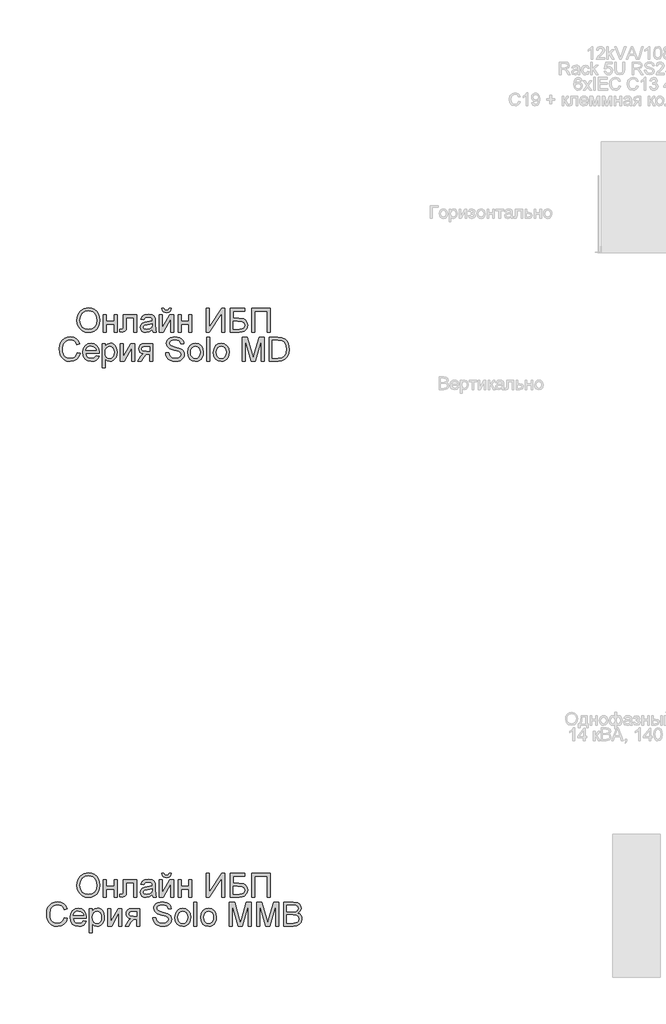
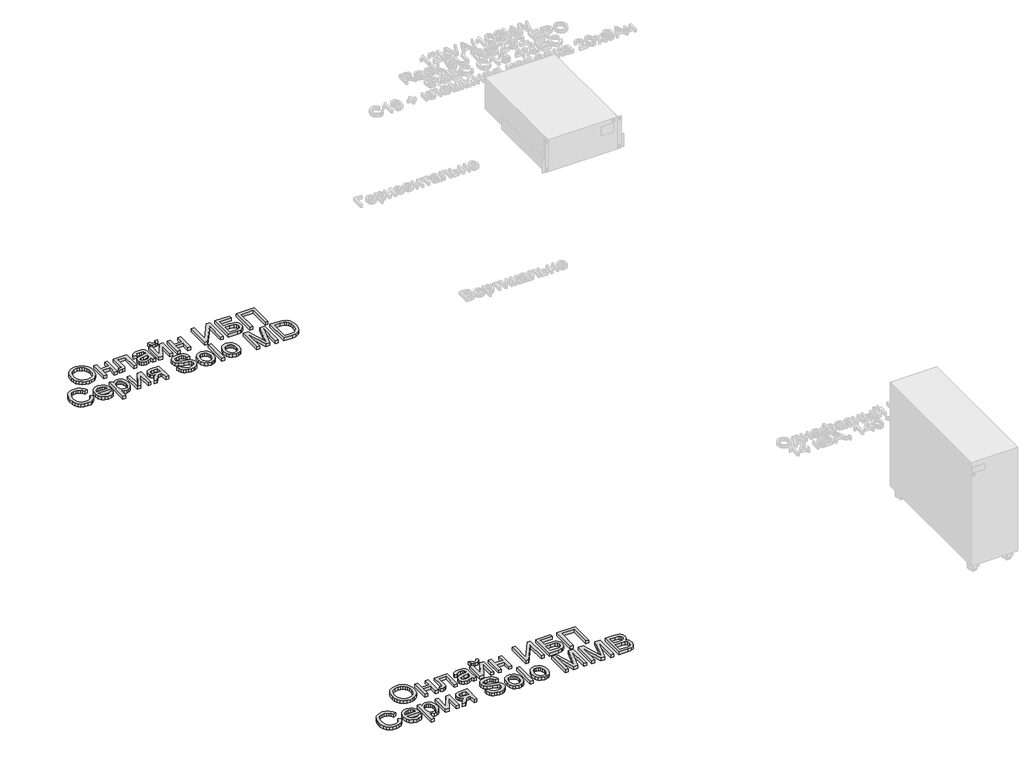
# One storey, part 8 of 74: 2 proxies.
"""IFC4 building model written with IfcOpenShell, lengths in millimetres."""

import ifcopenshell
import ifcopenshell.guid

model = None  # the IFC model being written
_history = None  # IfcOwnerHistory: only IFC2X3 demands one
_inside = {}  # id of a spatial element -> (the spatial element, [elements in it])
_under = {}  # id of a project, library or spatial element -> (it, [spatial elements below it])
_declared = {}  # id of a project -> (the project, [libraries it declares])
_typed = {}  # id of a type object -> (the type object, [elements of that type])
_made_of = {}  # id of a material, layer set ... -> (it, [elements and type objects made of it])


def new_model(schema):
    """Start an empty IFC model of exactly this schema.

    Asked for "IFC4X3", IfcOpenShell would pick the latest addendum, in which some entities
    have other attributes; the version numbers below select the first issue.
    IFC2X3 requires an IfcOwnerHistory on every rooted entity: one is made here for all.
    """
    global model, _history
    if schema == "IFC4X3":
        model = ifcopenshell.file(schema_version=(4, 3, 0, 0))
    else:
        model = ifcopenshell.file(schema=schema)
    _inside.clear()
    _under.clear()
    _declared.clear()
    _typed.clear()
    _made_of.clear()
    _history = None
    if model.schema == "IFC2X3":
        org = make("IfcOrganization", Name="unknown")
        user = make(
            "IfcPersonAndOrganization",
            ThePerson=make("IfcPerson", FamilyName="unknown"),
            TheOrganization=org,
        )
        app = make(
            "IfcApplication",
            ApplicationDeveloper=org,
            Version="unknown",
            ApplicationFullName="unknown",
            ApplicationIdentifier="unknown",
        )
        _history = make(
            "IfcOwnerHistory",
            OwningUser=user,
            OwningApplication=app,
            ChangeAction="ADDED",
            CreationDate=0,
        )
    return model


def make(cls, **values):
    """One entity of the class cls with the attributes given. An attribute that is None is left unset."""
    return model.create_entity(
        cls, **{name: value for name, value in values.items() if value is not None}
    )


def rooted(cls, **values):
    """An entity with a GlobalId (a new one), such as an element, a storey or a relation."""
    return make(cls, GlobalId=ifcopenshell.guid.new(), OwnerHistory=_history, **values)


def si_unit(unit_type, name, prefix=None):
    """IfcSIUnit, for example si_unit("LENGTHUNIT", "METRE", prefix="MILLI")."""
    return make("IfcSIUnit", UnitType=unit_type, Prefix=prefix, Name=name)


def assignment(units):
    """IfcUnitAssignment: the units of a project."""
    return None if units is None else make("IfcUnitAssignment", Units=units)


def point(xyz):
    """IfcCartesianPoint."""
    return None if xyz is None else make("IfcCartesianPoint", Coordinates=xyz)


def direction(xyz):
    """IfcDirection."""
    return None if xyz is None else make("IfcDirection", DirectionRatios=xyz)


def frame(location, z_axis=None, x_axis=None):
    """IfcAxis2Placement3D, a coordinate frame: its origin and axes. An axis left out is left unset."""
    return make(
        "IfcAxis2Placement3D",
        Location=point(location),
        Axis=direction(z_axis),
        RefDirection=direction(x_axis),
    )


def origin():
    """The frame at (0, 0, 0) with its axes left unset."""
    return frame((0.0, 0.0, 0.0))


def origin_with_axes():
    """The frame at (0, 0, 0) with the z axis (0, 0, 1) and the x axis (1, 0, 0) written out."""
    return frame((0.0, 0.0, 0.0), z_axis=(0.0, 0.0, 1.0), x_axis=(1.0, 0.0, 0.0))


def place(relative_to, where):
    """IfcLocalPlacement: puts the frame where relative to a parent placement (None: the world)."""
    return make(
        "IfcLocalPlacement", PlacementRelTo=relative_to, RelativePlacement=where
    )


def context(
    kind, dimensions, precision=None, world=None, true_north=None, identifier=None
):
    """IfcGeometricRepresentationContext, for example the 3D "Model" context."""
    return make(
        "IfcGeometricRepresentationContext",
        ContextIdentifier=identifier,
        ContextType=kind,
        CoordinateSpaceDimension=dimensions,
        Precision=precision,
        WorldCoordinateSystem=world,
        TrueNorth=true_north,
    )


def project(units=None, contexts=None):
    """IfcProject with its units and contexts."""
    return rooted(
        "IfcProject",
        Name="project",
        RepresentationContexts=contexts,
        UnitsInContext=assignment(units),
    )


def spatial(cls, under=None, at=None, **own):
    """A site, building, storey or space (cls), placed at a placement, below another one or the project."""
    s = rooted(cls, ObjectPlacement=at, **own)
    if under is not None:
        _under.setdefault(under.id(), (under, []))[1].append(s)
    return s


def polyline(points):
    """IfcPolyline through the points."""
    return make("IfcPolyline", Points=[point(p) for p in points])


def outline(outer, holes=None, kind="AREA"):
    """IfcArbitraryClosedProfileDef: a profile drawn as a closed curve; with holes, ...WithVoids."""
    if holes is None:
        return make("IfcArbitraryClosedProfileDef", ProfileType=kind, OuterCurve=outer)
    return make(
        "IfcArbitraryProfileDefWithVoids",
        ProfileType=kind,
        OuterCurve=outer,
        InnerCurves=holes,
    )


def extrude(swept, where, along, depth):
    """IfcExtrudedAreaSolid: the profile swept, set in the frame where, extruded along a direction by depth."""
    return make(
        "IfcExtrudedAreaSolid",
        SweptArea=swept,
        Position=where,
        ExtrudedDirection=direction(along),
        Depth=depth,
    )


def shape(context_of_items, identifier, shape_type, items):
    """IfcShapeRepresentation: the items that make up one representation, for example the "Body"."""
    return make(
        "IfcShapeRepresentation",
        ContextOfItems=context_of_items,
        RepresentationIdentifier=identifier,
        RepresentationType=shape_type,
        Items=items,
    )


def made_of(thing, what):
    """Note that an element or type object is made of a material, layer set ...; save() writes the relation."""
    if what is not None:
        _made_of.setdefault(what.id(), (what, []))[1].append(thing)
    return thing


def element(
    cls,
    number,
    at=None,
    inside=None,
    cuts=None,
    type_object=None,
    material=None,
    context=None,
    identifier="Body",
    shape_type=None,
    held_by="IfcProductDefinitionShape",
    body=None,
    shapes=None,
    **own,
):
    """One element of the class cls, such as IfcWall. Its Tag is "e" and its number.

    at: its placement. inside: the storey or other place that contains it. cuts: it is an
    opening in that element (IfcRelVoidsElement). A single representation is given by context,
    identifier, shape_type and body (its items); several are given by shapes. held_by: the class
    of the entity that holds the representations. save() writes the other relations.
    """
    e = rooted(cls, Tag="e%d" % number, ObjectPlacement=at, **own)
    if body is not None:
        shapes = [shape(context, identifier, shape_type, body)]
    if shapes is not None:
        e.Representation = make(held_by, Representations=shapes)
    if inside is not None:
        _inside.setdefault(inside.id(), (inside, []))[1].append(e)
    if cuts is not None:
        rooted(
            "IfcRelVoidsElement", RelatingBuildingElement=cuts, RelatedOpeningElement=e
        )
    if type_object is not None:
        _typed.setdefault(type_object.id(), (type_object, []))[1].append(e)
    return made_of(e, material)


def aggregate(whole, parts):
    """IfcRelAggregates: a whole, such as a stair, and the parts it consists of."""
    return rooted("IfcRelAggregates", RelatingObject=whole, RelatedObjects=parts)


def save(model, path):
    """Write the relations noted so far, then the file.

    IfcRelAggregates (storeys below a building ...), IfcRelContainedInSpatialStructure (elements
    in a storey), IfcRelDefinesByType, IfcRelAssociatesMaterial and IfcRelDeclares: one each for
    every whole, place, type object, material and project.
    """
    for whole, parts in _under.values():
        aggregate(whole, parts)
    for where, things in _inside.values():
        rooted(
            "IfcRelContainedInSpatialStructure",
            RelatedElements=things,
            RelatingStructure=where,
        )
    for kind, things in _typed.values():
        rooted("IfcRelDefinesByType", RelatedObjects=things, RelatingType=kind)
    for what, things in _made_of.values():
        rooted("IfcRelAssociatesMaterial", RelatedObjects=things, RelatingMaterial=what)
    for by, libraries in _declared.values():
        rooted("IfcRelDeclares", RelatingContext=by, RelatedDefinitions=libraries)
    model.write(path)


model = new_model("IFC4")

# Units and contexts
model_context = context("Model", 3, world=origin())
ifc_project = project(units=[si_unit("LENGTHUNIT", "METRE", prefix="MILLI")], contexts=[model_context])

# Site, building, storey
site = spatial("IfcSite", under=ifc_project)
building = spatial("IfcBuilding", under=site)
storey = spatial("IfcBuildingStorey", under=building, Name="Этаж 01", Elevation=0.0)

# Proxies
placement = place(None, origin())
element("IfcBuildingElementProxy", 1, Name="150 мм Arial", ObjectType="150 мм Arial", at=placement, inside=storey, context=model_context, shape_type="SweptSolid", body=[
    extrude(outline(polyline([(-2176.9010237, -4973.9937871), (-2171.8794345, -4940.6728753), (-2165.6024479, -4927.0543437), (-2156.8146668, -4915.4637616), (-2133.812845, -4899.5988506), (-2104.9800937, -4894.3105469), (-2085.2156335, -4896.7937504), (-2067.4929184, -4904.2433608), (-2052.7776386, -4916.1351463), (-2042.0354843, -4931.944875), (-2035.4687907, -4950.9091919), (-2033.2798928, -4972.2647417), (-2035.5837538, -4993.9054), (-2042.4953368, -5013.1364313), (-2053.6329642, -5028.9737512), (-2068.6149584, -5040.4332754), (-2086.1859222, -5047.3862451), (-2105.0904583, -5049.7039017), (-2125.1584211, -5047.1425233), (-2142.9823038, -5039.4583881), (-2157.6607954, -5027.3458734), (-2168.292585, -5011.4993565), (-2174.7489141, -4993.2662051), (-2176.9010237, -4973.9937871)]), holes=[polyline([(-2158.0654656, -4974.1777281), (-2154.2992736, -4997.7497669), (-2143.0006979, -5015.7116053), (-2126.0183453, -5027.079159), (-2105.2008229, -5030.8683435), (-2084.0797978, -5027.0423708), (-2067.0698541, -5015.5644525), (-2055.8540517, -4997.0507911), (-2052.115451, -4972.1175889), (-2053.7157376, -4955.4433374), (-2058.5165977, -4941.0315603), (-2066.3938709, -4929.2455409), (-2077.2233971, -4920.4485627), (-2090.2878065, -4914.9717195), (-2104.8697291, -4913.1461051), (-2125.13083, -4916.6639766), (-2142.3569044, -4927.2175914), (-2154.1383253, -4945.9933687), (-2158.0654656, -4974.1777281)])]), origin_with_axes(), (0.0, 0.0, 1.0), 20.0),
    extrude(outline(polyline([(-2009.7354451, -4936.6905527), (-1990.899887, -4936.6905527), (-1990.899887, -4979.0705586), (-1941.4565468, -4979.0705586), (-1941.4565468, -4936.6905527), (-1922.6209887, -4936.6905527), (-1922.6209887, -5047.3494569), (-1941.4565468, -5047.3494569), (-1941.4565468, -4997.9061167), (-1990.899887, -4997.9061167), (-1990.899887, -5047.3494569), (-2009.7354451, -5047.3494569), (-2009.7354451, -4936.6905527)])), origin_with_axes(), (0.0, 0.0, 1.0), 20.0),
    extrude(outline(polyline([(-1884.9498724, -4936.6905527), (-1800.1898607, -4936.6905527), (-1800.1898607, -5047.2390923), (-1819.0254188, -5047.2390923), (-1819.0254188, -4955.5261109), (-1866.1143142, -4955.5261109), (-1866.1143142, -5008.3171772), (-1867.3835071, -5032.6709653), (-1874.3548709, -5042.953267), (-1890.8359843, -5047.3494569), (-1906.1398753, -5046.3929637), (-1906.1398753, -5028.5138987), (-1897.7153776, -5028.5138987), (-1889.1989094, -5027.3550705), (-1885.7960009, -5023.6762505), (-1884.9498724, -5007.2503194), (-1884.9498724, -4936.6905527)])), origin_with_axes(), (0.0, 0.0, 1.0), 20.0),
    extrude(outline(polyline([(-1701.3031804, -5033.2227883), (-1719.5685214, -5045.9882935), (-1739.7468489, -5049.7039017), (-1755.4875997, -5047.4690185), (-1767.0988752, -5040.7643692), (-1774.2587785, -5030.583235), (-1776.645413, -5017.9188973), (-1773.0401694, -5003.0196765), (-1763.567208, -4992.2039458), (-1750.3786385, -4986.0235283), (-1734.0814661, -4983.1908369), (-1701.413545, -4976.7161138), (-1701.3031804, -4972.5222591), (-1702.5999644, -4964.1161555), (-1706.4903165, -4958.6163197), (-1715.1907257, -4954.5328295), (-1727.3124374, -4953.1716661), (-1746.3687248, -4956.7953038), (-1755.45541, -4969.6527795), (-1774.2909682, -4967.2983347), (-1766.142382, -4948.904235), (-1749.734845, -4938.1252925), (-1724.8844163, -4934.336108), (-1702.0573385, -4937.6838341), (-1689.1630745, -4946.0899377), (-1683.3873272, -4958.8738371), (-1682.4676222, -4975.3549504), (-1682.4676222, -4998.7890335), (-1681.511129, -5031.512137), (-1677.7587327, -5047.3494569), (-1696.5942908, -5047.3494569), (-1701.3031804, -5033.2227883)]), holes=[polyline([(-1701.3031804, -4995.551672), (-1731.6902332, -5001.3274193), (-1747.895435, -5004.3808399), (-1755.2346809, -5009.3472468), (-1757.8098548, -5016.5945221), (-1752.1996544, -5026.7848534), (-1735.7369351, -5030.8683435), (-1716.6806478, -5026.3617891), (-1704.3933891, -5015.4540879), (-1701.413545, -5000.8859609), (-1701.3031804, -4995.551672)])]), origin_with_axes(), (0.0, 0.0, 1.0), 20.0),
    extrude(outline(polyline([(-1656.5687297, -4936.6905527), (-1637.7331716, -4936.6905527), (-1637.7331716, -5021.0826824), (-1591.4536166, -4936.6905527), (-1567.0998285, -4936.6905527), (-1567.0998285, -5047.3494569), (-1585.9353867, -5047.3494569), (-1585.9353867, -4963.472362), (-1631.9206361, -5047.3494569), (-1656.5687297, -5047.3494569), (-1656.5687297, -4936.6905527)])), origin_with_axes(), (0.0, 0.0, 1.0), 20.0),
    extrude(outline(polyline([(-1595.3531657, -4896.6649917), (-1581.2264971, -4896.6649917), (-1584.2661221, -4908.7269226), (-1590.3683647, -4917.6158713), (-1599.2573134, -4923.0927145), (-1610.6570567, -4924.9183289), (-1623.0270888, -4923.1065101), (-1632.6196119, -4917.6710536), (-1639.1771084, -4908.7959005), (-1642.4420611, -4896.6649917), (-1628.3153925, -4896.6649917), (-1623.0178918, -4907.2783872), (-1612.3493139, -4910.7916603), (-1600.6506665, -4907.3887518), (-1595.3531657, -4896.6649917)])), origin_with_axes(), (0.0, 0.0, 1.0), 20.0),
    extrude(outline(polyline([(-1538.8464913, -4936.6905527), (-1520.0109331, -4936.6905527), (-1520.0109331, -4979.0705586), (-1470.567593, -4979.0705586), (-1470.567593, -4936.6905527), (-1451.7320348, -4936.6905527), (-1451.7320348, -5047.3494569), (-1470.567593, -5047.3494569), (-1470.567593, -4997.9061167), (-1520.0109331, -4997.9061167), (-1520.0109331, -5047.3494569), (-1538.8464913, -5047.3494569), (-1538.8464913, -4936.6905527)])), origin_with_axes(), (0.0, 0.0, 1.0), 20.0),
    extrude(outline(polyline([(-1362.2631336, -4896.6649917), (-1343.4275755, -4896.6649917), (-1343.4275755, -5016.0059109), (-1264.5536757, -4896.6649917), (-1244.5408951, -4896.6649917), (-1244.5408951, -5047.3494569), (-1263.3764533, -5047.3494569), (-1263.3764533, -4928.3396315), (-1342.0664121, -5047.3494569), (-1362.2631336, -5047.3494569), (-1362.2631336, -4896.6649917)])), origin_with_axes(), (0.0, 0.0, 1.0), 20.0),
    extrude(outline(polyline([(-1211.5786684, -4896.6649917), (-1117.4008776, -4896.6649917), (-1117.4008776, -4915.5005498), (-1192.7431102, -4915.5005498), (-1192.7431102, -4960.2350004), (-1157.4632269, -4960.2350004), (-1126.3771983, -4964.0609732), (-1115.9753349, -4969.5884002), (-1107.8727339, -4978.5187356), (-1102.6580067, -4990.0150479), (-1100.9197642, -5003.2404057), (-1105.8677771, -5024.7063201), (-1120.6382392, -5041.0218866), (-1133.9095821, -5045.7675643), (-1154.0787125, -5047.3494569), (-1211.5786684, -5047.3494569), (-1211.5786684, -4896.6649917)]), holes=[polyline([(-1192.7431102, -5028.5138987), (-1152.3864554, -5028.5138987), (-1138.121831, -5026.9595973), (-1127.9223027, -5022.296693), (-1121.7970675, -5014.5251859), (-1119.7553224, -5003.6450759), (-1124.4274237, -4988.8930079), (-1137.4320523, -4981.0203332), (-1165.8141482, -4979.0705586), (-1192.7431102, -4979.0705586), (-1192.7431102, -5028.5138987)])]), origin_with_axes(), (0.0, 0.0, 1.0), 20.0),
    extrude(outline(polyline([(-1075.0208718, -4896.6649917), (-957.2986333, -4896.6649917), (-957.2986333, -5047.3494569), (-976.1341915, -5047.3494569), (-976.1341915, -4915.5005498), (-1056.1853136, -4915.5005498), (-1056.1853136, -5047.3494569), (-1075.0208718, -5047.3494569), (-1075.0208718, -4896.6649917)])), origin_with_axes(), (0.0, 0.0, 1.0), 20.0),
    extrude(outline(polyline([(-2175.7238013, -5176.7480652), (-2156.8882432, -5181.6041075), (-2165.5794553, -5203.552867), (-2179.2186803, -5219.5879235), (-2197.1345335, -5229.3965772), (-2218.6556302, -5232.6661284), (-2240.5032222, -5230.192122), (-2257.8534568, -5222.7701028), (-2271.1523909, -5210.6575881), (-2280.8460815, -5194.1120953), (-2286.7643831, -5174.6603348), (-2288.7371503, -5153.8290169), (-2286.5068657, -5131.8572647), (-2279.8160119, -5112.8837508), (-2269.0140768, -5097.5108819), (-2254.4505483, -5086.3410648), (-2237.1784886, -5079.5398465), (-2218.25096, -5077.2727737), (-2197.5989845, -5080.2066326), (-2180.5246614, -5089.0082093), (-2167.5614196, -5103.1348779), (-2159.242688, -5122.0440125), (-2178.0782461, -5126.5321728), (-2184.6081515, -5112.7963788), (-2193.5292899, -5103.3740012), (-2204.9520259, -5097.9247492), (-2218.986724, -5096.1083318), (-2235.1643347, -5098.1224857), (-2248.4540718, -5104.1649475), (-2258.538637, -5113.6011207), (-2265.1007321, -5125.7964088), (-2269.9015921, -5153.7922287), (-2268.4806479, -5171.193047), (-2264.2178153, -5186.2394206), (-2256.9521459, -5198.3565339), (-2246.5226913, -5206.9695711), (-2234.019302, -5212.1153205), (-2220.5318284, -5213.8305703), (-2204.8094716, -5211.4945196), (-2191.708274, -5204.4863676), (-2181.8168469, -5192.8796907), (-2175.7238013, -5176.7480652)])), origin_with_axes(), (0.0, 0.0, 1.0), 20.0),
    extrude(outline(polyline([(-2055.8678473, -5197.3494569), (-2037.4001712, -5199.7039017), (-2044.0542367, -5213.6190381), (-2054.6722308, -5224.0209015), (-2069.0150301, -5230.5048217), (-2086.8435113, -5232.6661284), (-2108.9440222, -5228.9367247), (-2125.9493674, -5217.7485135), (-2136.7926892, -5199.8280618), (-2140.4071298, -5175.9019366), (-2136.755901, -5151.1710694), (-2125.8022146, -5132.6758021), (-2109.0267956, -5121.1427016), (-2087.9103691, -5117.2983347), (-2067.4515316, -5121.1335045), (-2051.1037755, -5132.6390139), (-2040.3846138, -5151.097493), (-2036.81156, -5175.791572), (-2036.9219246, -5180.8683435), (-2121.5715716, -5180.8683435), (-2118.3112175, -5194.967421), (-2110.7374469, -5205.3324962), (-2099.8067531, -5211.7060518), (-2086.4756293, -5213.8305703), (-2068.0079532, -5209.8942329), (-2055.8678473, -5197.3494569)]), holes=[polyline([(-2121.5715716, -5162.0327854), (-2055.6471181, -5162.0327854), (-2058.1947009, -5152.0815774), (-2063.188699, -5144.9630608), (-2074.1699766, -5138.3411849), (-2087.9839455, -5136.1338929), (-2100.6804728, -5137.8951279), (-2111.1789053, -5143.1788331), (-2118.4767644, -5151.4147913), (-2121.5715716, -5162.0327854)])]), origin_with_axes(), (0.0, 0.0, 1.0), 20.0),
    extrude(outline(polyline([(-2017.9760018, -5272.6916895), (-2017.9760018, -5119.6527795), (-1999.1404437, -5119.6527795), (-1999.1404437, -5138.1204557), (-1986.117421, -5122.503865), (-1968.5326617, -5117.2983347), (-1955.7947476, -5119.1193506), (-1944.6571202, -5124.5823982), (-1935.588829, -5133.3563838), (-1929.0589236, -5145.1102136), (-1923.798211, -5174.136103), (-1925.2835346, -5190.2447359), (-1929.7395053, -5204.6519145), (-1937.0235688, -5216.6264734), (-1946.9931708, -5225.4372472), (-1958.6044463, -5230.8589081), (-1970.81353, -5232.6661284), (-1987.2026729, -5227.8284802), (-1999.1404437, -5215.5964039), (-1999.1404437, -5272.6916895), (-2017.9760018, -5272.6916895)]), holes=[polyline([(-1999.1404437, -5175.8651484), (-1997.1032971, -5192.750932), (-1990.9918575, -5204.559944), (-1981.9741501, -5211.5129137), (-1971.2182002, -5213.8305703), (-1960.2875064, -5211.4301403), (-1951.0398728, -5204.2288502), (-1944.7352951, -5191.9875768), (-1942.6337692, -5174.4671968), (-1944.6847113, -5157.6733837), (-1950.8375377, -5145.6988248), (-1959.8414495, -5138.5251259), (-1970.445648, -5136.1338929), (-1981.0912333, -5138.6768772), (-1990.4400345, -5146.3058301), (-1996.9653414, -5158.7816282), (-1999.1404437, -5175.8651484)])]), origin_with_axes(), (0.0, 0.0, 1.0), 20.0),
    extrude(outline(polyline([(-1902.6082081, -5119.6527795), (-1883.77265, -5119.6527795), (-1883.77265, -5204.0449092), (-1837.493095, -5119.6527795), (-1813.1393069, -5119.6527795), (-1813.1393069, -5230.3116837), (-1831.974865, -5230.3116837), (-1831.974865, -5146.4345888), (-1877.9601144, -5230.3116837), (-1902.6082081, -5230.3116837), (-1902.6082081, -5119.6527795)])), origin_with_axes(), (0.0, 0.0, 1.0), 20.0),
    extrude(outline(polyline([(-1700.125958, -5119.6527795), (-1700.125958, -5230.3116837), (-1718.9615161, -5230.3116837), (-1718.9615161, -5187.9316778), (-1729.2254238, -5187.9316778), (-1743.2049396, -5190.3229108), (-1756.3383268, -5206.399354), (-1771.3479122, -5230.3116837), (-1793.1265264, -5230.3116837), (-1774.2173918, -5200.0717837), (-1765.8664705, -5189.2192648), (-1758.1777368, -5184.4000107), (-1771.0536066, -5180.4544763), (-1780.1035037, -5172.9588806), (-1785.4561868, -5162.9892785), (-1787.2404144, -5151.6217249), (-1784.8031962, -5138.727461), (-1777.4915416, -5128.5187356), (-1765.5629679, -5121.8692685), (-1749.2749925, -5119.6527795), (-1700.125958, -5119.6527795)]), holes=[polyline([(-1718.9615161, -5138.4883377), (-1743.7935508, -5138.4883377), (-1756.6188369, -5139.5781881), (-1763.8983018, -5142.8477393), (-1768.4048563, -5153.0564647), (-1766.7447888, -5160.2347621), (-1761.7645863, -5165.2149646), (-1738.2385327, -5169.0961197), (-1718.9615161, -5169.0961197), (-1718.9615161, -5138.4883377)])]), origin_with_axes(), (0.0, 0.0, 1.0), 20.0),
    extrude(outline(polyline([(-1617.7203911, -5178.5138987), (-1598.8848329, -5178.5138987), (-1592.81478, -5197.367851), (-1577.9891356, -5209.2872276), (-1555.4011811, -5213.8305703), (-1535.7194943, -5210.3908736), (-1523.0091714, -5200.9363063), (-1518.8337108, -5188.2995598), (-1521.9607077, -5176.5457301), (-1534.7630011, -5167.9924737), (-1562.1886039, -5160.8003807), (-1591.711134, -5151.5113603), (-1607.7323949, -5137.4950563), (-1613.0115015, -5118.7698627), (-1611.3790252, -5107.7380014), (-1606.4815961, -5097.4511011), (-1598.447973, -5088.7322978), (-1587.4069147, -5082.4047275), (-1559.4846712, -5077.2727737), (-1529.6862296, -5082.6438508), (-1518.2634937, -5089.2749238), (-1509.8206019, -5098.4259884), (-1504.4771159, -5109.5268276), (-1502.3525974, -5122.0072243), (-1521.1881555, -5122.0072243), (-1524.6462463, -5110.7684293), (-1531.8567334, -5102.6566313), (-1543.1231195, -5097.7454067), (-1558.7489072, -5096.1083318), (-1574.742577, -5097.7270126), (-1585.7146575, -5102.5830549), (-1592.0606219, -5109.7291627), (-1594.1759434, -5118.2180397), (-1592.6768242, -5125.456118), (-1588.1794668, -5131.2778506), (-1557.424532, -5141.7992756), (-1524.0944233, -5151.2538429), (-1513.3568675, -5158.087251), (-1505.8658704, -5166.5209457), (-1501.4650821, -5176.4629566), (-1499.9981526, -5187.8213132), (-1501.6858113, -5199.4325887), (-1506.7487872, -5210.3540854), (-1514.9801469, -5219.7534704), (-1526.1729566, -5226.7984106), (-1539.6328391, -5231.199199), (-1554.6654171, -5232.6661284), (-1573.1192977, -5231.0842358), (-1588.3082255, -5226.3385581), (-1600.4069447, -5218.4107011), (-1609.590199, -5207.2822708), (-1615.4855079, -5193.7258192), (-1617.7203911, -5178.5138987)])), origin_with_axes(), (0.0, 0.0, 1.0), 20.0),
    extrude(outline(polyline([(-1478.8081497, -5174.9822316), (-1474.7338566, -5148.3015899), (-1462.5109773, -5129.5488052), (-1447.4094214, -5120.3609524), (-1429.3280213, -5117.2983347), (-1409.5405685, -5121.0277385), (-1393.7354383, -5132.2159496), (-1383.3749616, -5149.9800515), (-1379.9214694, -5173.4371272), (-1381.4481797, -5192.4658234), (-1386.0283105, -5206.951177), (-1393.5285047, -5217.7990973), (-1403.815405, -5225.9154938), (-1416.0336857, -5230.9784698), (-1429.3280213, -5232.6661284), (-1449.3545974, -5228.9505203), (-1465.1413336, -5217.8036958), (-1475.3914456, -5199.6671135), (-1478.8081497, -5174.9822316)]), holes=[polyline([(-1459.9725915, -5174.9454434), (-1457.7928907, -5191.9921753), (-1451.2537882, -5204.1368797), (-1441.4129449, -5211.4071476), (-1429.3280213, -5213.8305703), (-1417.2982801, -5211.3933521), (-1407.4758308, -5204.0816974), (-1400.9367283, -5191.7760447), (-1398.7570275, -5174.3568322), (-1400.9505239, -5157.8067409), (-1407.5310131, -5145.8275835), (-1417.367258, -5138.5573155), (-1429.3280213, -5136.1338929), (-1441.4129449, -5138.5481185), (-1451.2537882, -5145.7907953), (-1457.7928907, -5157.9079085), (-1459.9725915, -5174.9454434)])]), origin_with_axes(), (0.0, 0.0, 1.0), 20.0),
    extrude(outline(polyline([(-1358.7314665, -5230.3116837), (-1358.7314665, -5079.6272184), (-1339.8959083, -5079.6272184), (-1339.8959083, -5230.3116837), (-1358.7314665, -5230.3116837)])), origin_with_axes(), (0.0, 0.0, 1.0), 20.0),
    extrude(outline(polyline([(-1316.3514606, -5174.9822316), (-1312.2771675, -5148.3015899), (-1300.0542882, -5129.5488052), (-1284.9527323, -5120.3609524), (-1266.8713323, -5117.2983347), (-1247.0838794, -5121.0277385), (-1231.2787492, -5132.2159496), (-1220.9182725, -5149.9800515), (-1217.4647803, -5173.4371272), (-1218.9914906, -5192.4658234), (-1223.5716214, -5206.951177), (-1231.0718156, -5217.7990973), (-1241.3587159, -5225.9154938), (-1253.5769967, -5230.9784698), (-1266.8713323, -5232.6661284), (-1286.8979084, -5228.9505203), (-1302.6846445, -5217.8036958), (-1312.9347566, -5199.6671135), (-1316.3514606, -5174.9822316)]), holes=[polyline([(-1297.5159025, -5174.9454434), (-1295.3362016, -5191.9921753), (-1288.7970992, -5204.1368797), (-1278.9562558, -5211.4071476), (-1266.8713323, -5213.8305703), (-1254.841591, -5211.3933521), (-1245.0191417, -5204.0816974), (-1238.4800393, -5191.7760447), (-1236.3003385, -5174.3568322), (-1238.4938349, -5157.8067409), (-1245.074324, -5145.8275835), (-1254.9105689, -5138.5573155), (-1266.8713323, -5136.1338929), (-1278.9562558, -5138.5481185), (-1288.7970992, -5145.7907953), (-1295.3362016, -5157.9079085), (-1297.5159025, -5174.9454434)])]), origin_with_axes(), (0.0, 0.0, 1.0), 20.0),
    extrude(outline(polyline([(-1135.0592134, -5230.3116837), (-1135.0592134, -5079.6272184), (-1102.6488096, -5079.6272184), (-1071.8202984, -5185.8347504), (-1065.6030927, -5208.0180348), (-1058.8708522, -5183.9953405), (-1028.5573758, -5079.6272184), (-996.146972, -5079.6272184), (-996.146972, -5230.3116837), (-1014.9825302, -5230.3116837), (-1014.9825302, -5098.4627766), (-1052.8375875, -5230.3116837), (-1078.3685979, -5230.3116837), (-1116.2236552, -5098.4627766), (-1116.2236552, -5230.3116837), (-1135.0592134, -5230.3116837)])), origin_with_axes(), (0.0, 0.0, 1.0), 20.0),
    extrude(outline(polyline([(-963.1847452, -5230.3116837), (-963.1847452, -5079.6272184), (-911.2030193, -5079.6272184), (-884.3108455, -5081.7977222), (-862.1643494, -5092.5766647), (-851.7440918, -5104.0545829), (-844.3220726, -5118.3284043), (-839.8798975, -5135.1222174), (-838.3991725, -5154.1601107), (-842.4090862, -5184.5655576), (-852.7097821, -5206.5097186), (-866.4685687, -5220.1765347), (-884.4763924, -5227.7365097), (-908.7014218, -5230.3116837), (-963.1847452, -5230.3116837)]), holes=[polyline([(-944.3491871, -5211.4761255), (-911.0190783, -5211.4761255), (-886.7756548, -5208.7537987), (-872.796139, -5201.065065), (-861.3366149, -5182.3582656), (-857.2347306, -5153.8658051), (-859.244286, -5133.3379897), (-865.2729522, -5118.1812515), (-874.180295, -5107.7701911), (-884.8258803, -5101.4794089), (-911.5341131, -5098.4627766), (-944.3491871, -5098.4627766), (-944.3491871, -5211.4761255)])]), origin_with_axes(), (0.0, 0.0, 1.0), 20.0),
])
element("IfcBuildingElementProxy", 2, Name="150 мм Arial", ObjectType="150 мм Arial", at=placement, inside=storey, context=model_context, shape_type="SweptSolid", body=[
    extrude(outline(polyline([(-2176.9010237, -8537.5671418), (-2171.8794345, -8504.2462301), (-2165.6024479, -8490.6276985), (-2156.8146668, -8479.0371164), (-2133.812845, -8463.1722053), (-2104.9800937, -8457.8839016), (-2085.2156335, -8460.3671051), (-2067.4929184, -8467.8167155), (-2052.7776386, -8479.708501), (-2042.0354843, -8495.5182297), (-2035.4687907, -8514.4825466), (-2033.2798928, -8535.8380964), (-2035.5837538, -8557.4787548), (-2042.4953368, -8576.7097861), (-2053.6329642, -8592.547106), (-2068.6149584, -8604.0066301), (-2086.1859222, -8610.9595998), (-2105.0904583, -8613.2772564), (-2125.1584211, -8610.715878), (-2142.9823038, -8603.0317428), (-2157.6607954, -8590.9192281), (-2168.292585, -8575.0727112), (-2174.7489141, -8556.8395598), (-2176.9010237, -8537.5671418)]), holes=[polyline([(-2158.0654656, -8537.7510828), (-2154.2992736, -8561.3231216), (-2143.0006979, -8579.28496), (-2126.0183453, -8590.6525137), (-2105.2008229, -8594.4416982), (-2084.0797978, -8590.6157255), (-2067.0698541, -8579.1378072), (-2055.8540517, -8560.6241458), (-2052.115451, -8535.6909436), (-2053.7157376, -8519.0166922), (-2058.5165977, -8504.604915), (-2066.3938709, -8492.8188956), (-2077.2233971, -8484.0219174), (-2090.2878065, -8478.5450742), (-2104.8697291, -8476.7194598), (-2125.13083, -8480.2373314), (-2142.3569044, -8490.7909461), (-2154.1383253, -8509.5667234), (-2158.0654656, -8537.7510828)])]), origin_with_axes(), (0.0, 0.0, 1.0), 20.0),
    extrude(outline(polyline([(-2009.7354451, -8500.2639075), (-1990.899887, -8500.2639075), (-1990.899887, -8542.6439133), (-1941.4565468, -8542.6439133), (-1941.4565468, -8500.2639075), (-1922.6209887, -8500.2639075), (-1922.6209887, -8610.9228116), (-1941.4565468, -8610.9228116), (-1941.4565468, -8561.4794715), (-1990.899887, -8561.4794715), (-1990.899887, -8610.9228116), (-2009.7354451, -8610.9228116), (-2009.7354451, -8500.2639075)])), origin_with_axes(), (0.0, 0.0, 1.0), 20.0),
    extrude(outline(polyline([(-1884.9498724, -8500.2639075), (-1800.1898607, -8500.2639075), (-1800.1898607, -8610.812447), (-1819.0254188, -8610.812447), (-1819.0254188, -8519.0994656), (-1866.1143142, -8519.0994656), (-1866.1143142, -8571.8905319), (-1867.3835071, -8596.24432), (-1874.3548709, -8606.5266218), (-1890.8359843, -8610.9228116), (-1906.1398753, -8609.9663184), (-1906.1398753, -8592.0872535), (-1897.7153776, -8592.0872535), (-1889.1989094, -8590.9284252), (-1885.7960009, -8587.2496052), (-1884.9498724, -8570.8236742), (-1884.9498724, -8500.2639075)])), origin_with_axes(), (0.0, 0.0, 1.0), 20.0),
    extrude(outline(polyline([(-1701.3031804, -8596.796143), (-1719.5685214, -8609.5616482), (-1739.7468489, -8613.2772564), (-1755.4875997, -8611.0423733), (-1767.0988752, -8604.3377239), (-1774.2587785, -8594.1565897), (-1776.645413, -8581.492252), (-1773.0401694, -8566.5930312), (-1763.567208, -8555.7773006), (-1750.3786385, -8549.596883), (-1734.0814661, -8546.7641917), (-1701.413545, -8540.2894686), (-1701.3031804, -8536.0956138), (-1702.5999644, -8527.6895102), (-1706.4903165, -8522.1896744), (-1715.1907257, -8518.1061842), (-1727.3124374, -8516.7450209), (-1746.3687248, -8520.3686585), (-1755.4554101, -8533.2261342), (-1774.2909682, -8530.8716895), (-1766.142382, -8512.4775897), (-1749.734845, -8501.6986473), (-1724.8844163, -8497.9094627), (-1702.0573385, -8501.2571889), (-1689.1630745, -8509.6632925), (-1683.3873272, -8522.4471918), (-1682.4676222, -8538.9283052), (-1682.4676222, -8562.3623883), (-1681.511129, -8595.0854917), (-1677.7587327, -8610.9228116), (-1696.5942908, -8610.9228116), (-1701.3031804, -8596.796143)]), holes=[polyline([(-1701.3031804, -8559.1250267), (-1731.6902332, -8564.900774), (-1747.895435, -8567.9541946), (-1755.2346809, -8572.9206015), (-1757.8098548, -8580.1678768), (-1752.1996544, -8590.3582081), (-1735.7369351, -8594.4416982), (-1716.6806478, -8589.9351438), (-1704.3933891, -8579.0274426), (-1701.413545, -8564.4593156), (-1701.3031804, -8559.1250267)])]), origin_with_axes(), (0.0, 0.0, 1.0), 20.0),
    extrude(outline(polyline([(-1656.5687297, -8500.2639075), (-1637.7331716, -8500.2639075), (-1637.7331716, -8584.6560372), (-1591.4536166, -8500.2639075), (-1567.0998285, -8500.2639075), (-1567.0998285, -8610.9228116), (-1585.9353867, -8610.9228116), (-1585.9353867, -8527.0457167), (-1631.9206361, -8610.9228116), (-1656.5687297, -8610.9228116), (-1656.5687297, -8500.2639075)])), origin_with_axes(), (0.0, 0.0, 1.0), 20.0),
    extrude(outline(polyline([(-1595.3531657, -8460.2383464), (-1581.2264971, -8460.2383464), (-1584.2661221, -8472.3002773), (-1590.3683647, -8481.189226), (-1599.2573134, -8486.6660692), (-1610.6570567, -8488.4916836), (-1623.0270888, -8486.6798648), (-1632.6196119, -8481.2444083), (-1639.1771084, -8472.3692552), (-1642.4420611, -8460.2383464), (-1628.3153925, -8460.2383464), (-1623.0178918, -8470.851742), (-1612.3493139, -8474.365015), (-1600.6506665, -8470.9621066), (-1595.3531657, -8460.2383464)])), origin_with_axes(), (0.0, 0.0, 1.0), 20.0),
    extrude(outline(polyline([(-1538.8464913, -8500.2639075), (-1520.0109331, -8500.2639075), (-1520.0109331, -8542.6439133), (-1470.567593, -8542.6439133), (-1470.567593, -8500.2639075), (-1451.7320348, -8500.2639075), (-1451.7320348, -8610.9228116), (-1470.567593, -8610.9228116), (-1470.567593, -8561.4794715), (-1520.0109331, -8561.4794715), (-1520.0109331, -8610.9228116), (-1538.8464913, -8610.9228116), (-1538.8464913, -8500.2639075)])), origin_with_axes(), (0.0, 0.0, 1.0), 20.0),
    extrude(outline(polyline([(-1362.2631336, -8460.2383464), (-1343.4275755, -8460.2383464), (-1343.4275755, -8579.5792656), (-1264.5536757, -8460.2383464), (-1244.5408951, -8460.2383464), (-1244.5408951, -8610.9228116), (-1263.3764533, -8610.9228116), (-1263.3764533, -8491.9129862), (-1342.0664121, -8610.9228116), (-1362.2631336, -8610.9228116), (-1362.2631336, -8460.2383464)])), origin_with_axes(), (0.0, 0.0, 1.0), 20.0),
    extrude(outline(polyline([(-1211.5786684, -8460.2383464), (-1117.4008776, -8460.2383464), (-1117.4008776, -8479.0739046), (-1192.7431102, -8479.0739046), (-1192.7431102, -8523.8083552), (-1157.4632269, -8523.8083552), (-1126.3771983, -8527.6343279), (-1115.9753349, -8533.1617549), (-1107.8727339, -8542.0920903), (-1102.6580067, -8553.5884027), (-1100.9197642, -8566.8137604), (-1105.8677771, -8588.2796748), (-1120.6382392, -8604.5952413), (-1133.9095821, -8609.3409191), (-1154.0787125, -8610.9228116), (-1211.5786684, -8610.9228116), (-1211.5786684, -8460.2383464)]), holes=[polyline([(-1192.7431102, -8592.0872535), (-1152.3864554, -8592.0872535), (-1138.121831, -8590.532952), (-1127.9223027, -8585.8700478), (-1121.7970675, -8578.0985406), (-1119.7553224, -8567.2184306), (-1124.4274237, -8552.4663626), (-1137.4320523, -8544.5936879), (-1165.8141482, -8542.6439133), (-1192.7431102, -8542.6439133), (-1192.7431102, -8592.0872535)])]), origin_with_axes(), (0.0, 0.0, 1.0), 20.0),
    extrude(outline(polyline([(-1075.0208718, -8460.2383464), (-957.2986333, -8460.2383464), (-957.2986333, -8610.9228116), (-976.1341915, -8610.9228116), (-976.1341915, -8479.0739046), (-1056.1853136, -8479.0739046), (-1056.1853136, -8610.9228116), (-1075.0208718, -8610.9228116), (-1075.0208718, -8460.2383464)])), origin_with_axes(), (0.0, 0.0, 1.0), 20.0),
    extrude(outline(polyline([(-2255.7749235, -8740.3214199), (-2236.9393653, -8745.1774622), (-2245.6305775, -8767.1262218), (-2259.2698024, -8783.1612782), (-2277.1856556, -8792.9699319), (-2298.7067523, -8796.2394832), (-2320.5543443, -8793.7654767), (-2337.9045789, -8786.3434575), (-2351.203513, -8774.2309428), (-2360.8972036, -8757.6854501), (-2366.8155052, -8738.2336896), (-2368.7882724, -8717.4023716), (-2366.5579878, -8695.4306194), (-2359.867134, -8676.4571055), (-2349.0651989, -8661.0842367), (-2334.5016705, -8649.9144196), (-2317.2296108, -8643.1132012), (-2298.3020821, -8640.8461284), (-2277.6501066, -8643.7799873), (-2260.5757835, -8652.5815641), (-2247.6125417, -8666.7082327), (-2239.2938101, -8685.6173672), (-2258.1293683, -8690.1055276), (-2264.6592737, -8676.3697336), (-2273.5804121, -8666.947356), (-2285.003148, -8661.4981039), (-2299.0378461, -8659.6816866), (-2315.2154569, -8661.6958405), (-2328.5051939, -8667.7383023), (-2338.5897591, -8677.1744754), (-2345.1518542, -8689.3697636), (-2349.9527143, -8717.3655834), (-2348.53177, -8734.7664018), (-2344.2689374, -8749.8127754), (-2337.003268, -8761.9298886), (-2326.5738135, -8770.5429258), (-2314.0704242, -8775.6886752), (-2300.5829505, -8777.403925), (-2284.8605937, -8775.0678743), (-2271.7593962, -8768.0597223), (-2261.867969, -8756.4530454), (-2255.7749235, -8740.3214199)])), origin_with_axes(), (0.0, 0.0, 1.0), 20.0),
    extrude(outline(polyline([(-2135.9189695, -8760.9228116), (-2117.4512933, -8763.2772564), (-2124.1053589, -8777.1923929), (-2134.723353, -8787.5942563), (-2149.0661523, -8794.0781764), (-2166.8946335, -8796.2394832), (-2188.9951443, -8792.5100794), (-2206.0004895, -8781.3218683), (-2216.8438114, -8763.4014166), (-2220.458252, -8739.4752913), (-2216.8070232, -8714.7444242), (-2205.8533367, -8696.2491569), (-2189.0779178, -8684.7160563), (-2167.9614912, -8680.8716895), (-2147.5026538, -8684.7068593), (-2131.1548976, -8696.2123687), (-2120.435736, -8714.6708478), (-2116.8626821, -8739.3649267), (-2116.9730467, -8744.4416982), (-2201.6226938, -8744.4416982), (-2198.3623396, -8758.5407757), (-2190.788569, -8768.9058509), (-2179.8578753, -8775.2794065), (-2166.5267515, -8777.403925), (-2148.0590753, -8773.4675877), (-2135.9189695, -8760.9228116)]), holes=[polyline([(-2201.6226938, -8725.6061401), (-2135.6982403, -8725.6061401), (-2138.2458231, -8715.6549321), (-2143.2398212, -8708.5364155), (-2154.2210987, -8701.9145396), (-2168.0350676, -8699.7072476), (-2180.731595, -8701.4684827), (-2191.2300274, -8706.7521878), (-2198.5278865, -8714.988146), (-2201.6226938, -8725.6061401)])]), origin_with_axes(), (0.0, 0.0, 1.0), 20.0),
    extrude(outline(polyline([(-2098.027124, -8836.2650442), (-2098.027124, -8683.2261342), (-2079.1915658, -8683.2261342), (-2079.1915658, -8701.6938104), (-2066.1685432, -8686.0772197), (-2048.5837838, -8680.8716895), (-2035.8458697, -8682.6927054), (-2024.7082423, -8688.155753), (-2015.6399511, -8696.9297386), (-2009.1100457, -8708.6835683), (-2003.8493332, -8737.7094577), (-2005.3346567, -8753.8180906), (-2009.7906274, -8768.2252692), (-2017.0746909, -8780.1998282), (-2027.044293, -8789.010602), (-2038.6555685, -8794.4322629), (-2050.8646522, -8796.2394832), (-2067.2537951, -8791.4018349), (-2079.1915658, -8779.1697586), (-2079.1915658, -8836.2650442), (-2098.027124, -8836.2650442)]), holes=[polyline([(-2079.1915658, -8739.4385031), (-2077.1544193, -8756.3242867), (-2071.0429796, -8768.1332987), (-2062.0252722, -8775.0862684), (-2051.2693224, -8777.403925), (-2040.3386286, -8775.003495), (-2031.0909949, -8767.8022049), (-2024.7864172, -8755.5609316), (-2022.6848913, -8738.0405515), (-2024.7358335, -8721.2467385), (-2030.8886598, -8709.2721795), (-2039.8925717, -8702.0984806), (-2050.4967702, -8699.7072476), (-2061.1423554, -8702.2502319), (-2070.4911566, -8709.8791848), (-2077.0164635, -8722.354983), (-2079.1915658, -8739.4385031)])]), origin_with_axes(), (0.0, 0.0, 1.0), 20.0),
    extrude(outline(polyline([(-1982.6593303, -8683.2261342), (-1963.8237721, -8683.2261342), (-1963.8237721, -8767.6182639), (-1917.5442171, -8683.2261342), (-1893.190429, -8683.2261342), (-1893.190429, -8793.8850384), (-1912.0259872, -8793.8850384), (-1912.0259872, -8710.0079435), (-1958.0112366, -8793.8850384), (-1982.6593303, -8793.8850384), (-1982.6593303, -8683.2261342)])), origin_with_axes(), (0.0, 0.0, 1.0), 20.0),
    extrude(outline(polyline([(-1780.1770801, -8683.2261342), (-1780.1770801, -8793.8850384), (-1799.0126383, -8793.8850384), (-1799.0126383, -8751.5050326), (-1809.2765459, -8751.5050326), (-1823.2560618, -8753.8962655), (-1836.389449, -8769.9727087), (-1851.3990344, -8793.8850384), (-1873.1776485, -8793.8850384), (-1854.268514, -8763.6451384), (-1845.9175927, -8752.7926195), (-1838.228859, -8747.9733654), (-1851.1047288, -8744.027831), (-1860.1546259, -8736.5322354), (-1865.5073089, -8726.5626333), (-1867.2915366, -8715.1950796), (-1864.8543184, -8702.3008157), (-1857.5426637, -8692.0920903), (-1845.61409, -8685.4426233), (-1829.3261147, -8683.2261342), (-1780.1770801, -8683.2261342)]), holes=[polyline([(-1799.0126383, -8702.0616924), (-1823.844673, -8702.0616924), (-1836.669959, -8703.1515428), (-1843.949424, -8706.421094), (-1848.4559784, -8716.6298194), (-1846.7959109, -8723.8081168), (-1841.8157084, -8728.7883194), (-1818.2896548, -8732.6694744), (-1799.0126383, -8732.6694744), (-1799.0126383, -8702.0616924)])]), origin_with_axes(), (0.0, 0.0, 1.0), 20.0),
    extrude(outline(polyline([(-1697.7715132, -8742.0872535), (-1678.9359551, -8742.0872535), (-1672.8659021, -8760.9412057), (-1658.0402577, -8772.8605824), (-1635.4523032, -8777.403925), (-1615.7706165, -8773.9642284), (-1603.0602935, -8764.5096611), (-1598.8848329, -8751.8729145), (-1602.0118299, -8740.1190848), (-1614.8141233, -8731.5658284), (-1642.239726, -8724.3737354), (-1671.7622561, -8715.084715), (-1687.783517, -8701.068411), (-1693.0626237, -8682.3432175), (-1691.4301473, -8671.3113561), (-1686.5327183, -8661.0244558), (-1678.4990952, -8652.3056526), (-1667.4580368, -8645.9780822), (-1639.5357934, -8640.8461284), (-1609.7373518, -8646.2172055), (-1598.3146158, -8652.8482785), (-1589.871724, -8661.9993431), (-1584.528238, -8673.1001823), (-1582.4037195, -8685.580579), (-1601.2392777, -8685.580579), (-1604.6973684, -8674.3417841), (-1611.9078555, -8666.2299861), (-1623.1742416, -8661.3187614), (-1638.8000294, -8659.6816866), (-1654.7936991, -8661.3003673), (-1665.7657796, -8666.1564097), (-1672.111744, -8673.3025174), (-1674.2270655, -8681.7913945), (-1672.7279464, -8689.0294727), (-1668.230589, -8694.8512053), (-1637.4756542, -8705.3726304), (-1604.1455454, -8714.8271976), (-1593.4079897, -8721.6606057), (-1585.9169926, -8730.0943004), (-1581.5162042, -8740.0363114), (-1580.0492747, -8751.394668), (-1581.7369334, -8763.0059434), (-1586.7999094, -8773.9274402), (-1595.031269, -8783.3268251), (-1606.2240787, -8790.3717653), (-1619.6839612, -8794.7725537), (-1634.7165392, -8796.2394832), (-1653.1704198, -8794.6575906), (-1668.3593477, -8789.9119129), (-1680.4580668, -8781.9840559), (-1689.6413211, -8770.8556255), (-1695.5366301, -8757.299174), (-1697.7715132, -8742.0872535)])), origin_with_axes(), (0.0, 0.0, 1.0), 20.0),
    extrude(outline(polyline([(-1558.8592718, -8738.5555863), (-1554.7849787, -8711.8749446), (-1542.5620994, -8693.1221599), (-1527.4605435, -8683.9343071), (-1509.3791435, -8680.8716895), (-1489.5916907, -8684.6010932), (-1473.7865604, -8695.7893044), (-1463.4260838, -8713.5534062), (-1459.9725915, -8737.0104819), (-1461.4993018, -8756.0391781), (-1466.0794326, -8770.5245317), (-1473.5796268, -8781.372452), (-1483.8665271, -8789.4888486), (-1496.0848079, -8794.5518245), (-1509.3791435, -8796.2394832), (-1529.4057196, -8792.523875), (-1545.1924557, -8781.3770506), (-1555.4425678, -8763.2404682), (-1558.8592718, -8738.5555863)]), holes=[polyline([(-1540.0237137, -8738.5187981), (-1537.8440129, -8755.5655301), (-1531.3049104, -8767.7102344), (-1521.464067, -8774.9805024), (-1509.3791435, -8777.403925), (-1497.3494022, -8774.9667068), (-1487.526953, -8767.6550521), (-1480.9878505, -8755.3493994), (-1478.8081497, -8737.9301869), (-1481.0016461, -8721.3800957), (-1487.5821353, -8709.4009382), (-1497.4183801, -8702.1306703), (-1509.3791435, -8699.7072476), (-1521.464067, -8702.1214732), (-1531.3049104, -8709.36415), (-1537.8440129, -8721.4812632), (-1540.0237137, -8738.5187981)])]), origin_with_axes(), (0.0, 0.0, 1.0), 20.0),
    extrude(outline(polyline([(-1438.7825886, -8793.8850384), (-1438.7825886, -8643.2005732), (-1419.9470304, -8643.2005732), (-1419.9470304, -8793.8850384), (-1438.7825886, -8793.8850384)])), origin_with_axes(), (0.0, 0.0, 1.0), 20.0),
    extrude(outline(polyline([(-1396.4025828, -8738.5555863), (-1392.3282897, -8711.8749446), (-1380.1054104, -8693.1221599), (-1365.0038545, -8683.9343071), (-1346.9224544, -8680.8716895), (-1327.1350016, -8684.6010932), (-1311.3298714, -8695.7893044), (-1300.9693947, -8713.5534062), (-1297.5159025, -8737.0104819), (-1299.0426127, -8756.0391781), (-1303.6227436, -8770.5245317), (-1311.1229378, -8781.372452), (-1321.409838, -8789.4888486), (-1333.6281188, -8794.5518245), (-1346.9224544, -8796.2394832), (-1366.9490305, -8792.523875), (-1382.7357666, -8781.3770506), (-1392.9858787, -8763.2404682), (-1396.4025828, -8738.5555863)]), holes=[polyline([(-1377.5670246, -8738.5187981), (-1375.3873238, -8755.5655301), (-1368.8482213, -8767.7102344), (-1359.0073779, -8774.9805024), (-1346.9224544, -8777.403925), (-1334.8927132, -8774.9667068), (-1325.0702639, -8767.6550521), (-1318.5311614, -8755.3493994), (-1316.3514606, -8737.9301869), (-1318.544957, -8721.3800957), (-1325.1254462, -8709.4009382), (-1334.961691, -8702.1306703), (-1346.9224544, -8699.7072476), (-1359.0073779, -8702.1214732), (-1368.8482213, -8709.36415), (-1375.3873238, -8721.4812632), (-1377.5670246, -8738.5187981)])]), origin_with_axes(), (0.0, 0.0, 1.0), 20.0),
    extrude(outline(polyline([(-1215.1103355, -8793.8850384), (-1215.1103355, -8643.2005732), (-1182.6999318, -8643.2005732), (-1151.8714206, -8749.4081052), (-1145.6542148, -8771.5913895), (-1138.9219743, -8747.5686952), (-1108.6084979, -8643.2005732), (-1076.1980942, -8643.2005732), (-1076.1980942, -8793.8850384), (-1095.0336523, -8793.8850384), (-1095.0336523, -8662.0361313), (-1132.8887096, -8793.8850384), (-1158.4197201, -8793.8850384), (-1196.2747774, -8662.0361313), (-1196.2747774, -8793.8850384), (-1215.1103355, -8793.8850384)])), origin_with_axes(), (0.0, 0.0, 1.0), 20.0),
    extrude(outline(polyline([(-1043.2358674, -8793.8850384), (-1043.2358674, -8643.2005732), (-1010.8254636, -8643.2005732), (-979.9969524, -8749.4081052), (-973.7797467, -8771.5913895), (-967.0475062, -8747.5686952), (-936.7340298, -8643.2005732), (-904.323626, -8643.2005732), (-904.323626, -8793.8850384), (-923.1591842, -8793.8850384), (-923.1591842, -8662.0361313), (-961.0142415, -8793.8850384), (-986.5452519, -8793.8850384), (-1024.4003092, -8662.0361313), (-1024.4003092, -8793.8850384), (-1043.2358674, -8793.8850384)])), origin_with_axes(), (0.0, 0.0, 1.0), 20.0),
    extrude(outline(polyline([(-871.3613992, -8793.8850384), (-871.3613992, -8643.2005732), (-813.8614434, -8643.2005732), (-785.7000767, -8647.6335512), (-776.2363123, -8653.2575472), (-769.0718105, -8661.2635791), (-763.0569399, -8680.5405957), (-768.1153173, -8698.1437492), (-783.4008142, -8711.4794715), (-772.7276378, -8717.0528837), (-764.8411675, -8725.5325637), (-759.9713296, -8736.3574914), (-758.3480503, -8748.9666468), (-762.7810284, -8769.2185506), (-773.7623059, -8783.6395248), (-790.1514488, -8791.2914703), (-814.3029018, -8793.8850384), (-871.3613992, -8793.8850384)]), holes=[polyline([(-852.5258411, -8704.4161372), (-818.1288745, -8704.4161372), (-798.0425176, -8702.7974564), (-785.9575941, -8695.8260926), (-781.892498, -8683.557228), (-785.6816826, -8671.2699694), (-796.5342014, -8664.0043), (-820.7408367, -8662.0361313), (-852.5258411, -8662.0361313), (-852.5258411, -8704.4161372)]), polyline([(-852.5258411, -8775.0494802), (-813.8982316, -8775.0494802), (-799.9187158, -8774.3137163), (-788.0913096, -8770.211832), (-780.2554231, -8761.8425166), (-777.1836085, -8749.1505878), (-780.788852, -8734.5088844), (-792.4691054, -8725.771687), (-815.7376416, -8723.2516953), (-852.5258411, -8723.2516953), (-852.5258411, -8775.0494802)])]), origin_with_axes(), (0.0, 0.0, 1.0), 20.0),
])

save(model, "model.ifc")
